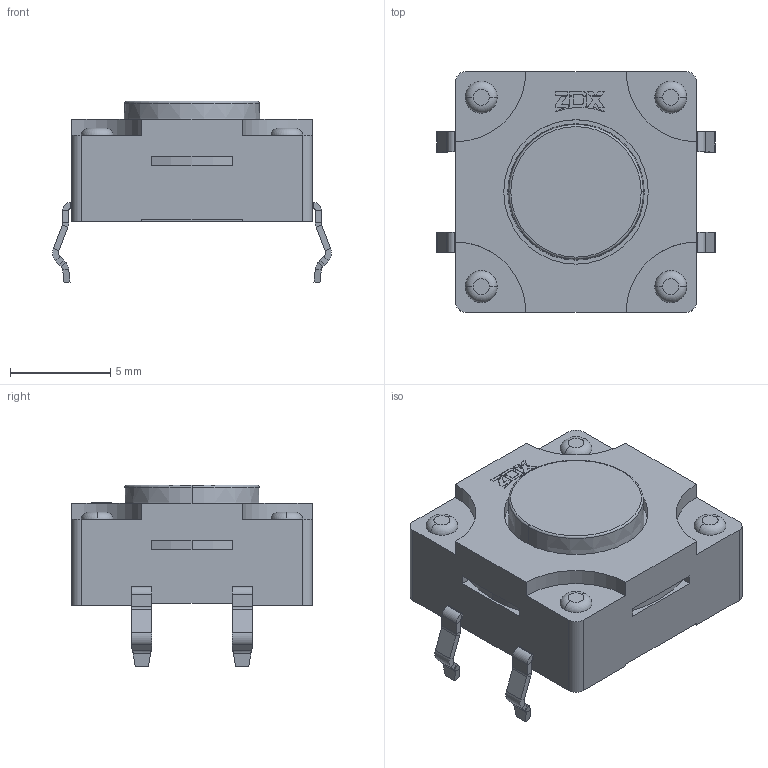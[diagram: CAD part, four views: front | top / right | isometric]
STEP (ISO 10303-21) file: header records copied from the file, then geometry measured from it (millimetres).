
FILE_DESCRIPTION((''),'2;1');
FILE_NAME('ASM0006_ASM','2024-01-04T',('WYH'),(''),'PRO/ENGINEER BY PARAMETRIC TECHNOLOGY CORPORATION, 2013040','PRO/ENGINEER BY PARAMETRIC TECHNOLOGY CORPORATION, 2013040','');
FILE_SCHEMA(('CONFIG_CONTROL_DESIGN'));
Length unit declared in the file: millimetre
Products named in the file (1): ASM0006_ASM
Bounding box: 13.91 x 12 x 9.06 mm (x, y, z)
Volume: 590.6 mm3; surface area: 1356.6 mm2
Topology: 2 solids, 10 shells, 417 faces, 974 edges, 600 vertices
Faces by surface type: plane 267, cylinder 106, torus 28, bspline 12, cone 4
Entity records: 12201 total; most frequent: CARTESIAN_POINT 2509, DIRECTION 2026, ORIENTED_EDGE 1948, EDGE_CURVE 974, VECTOR 686, LINE 686, AXIS2_PLACEMENT_3D 670, VERTEX_POINT 600
